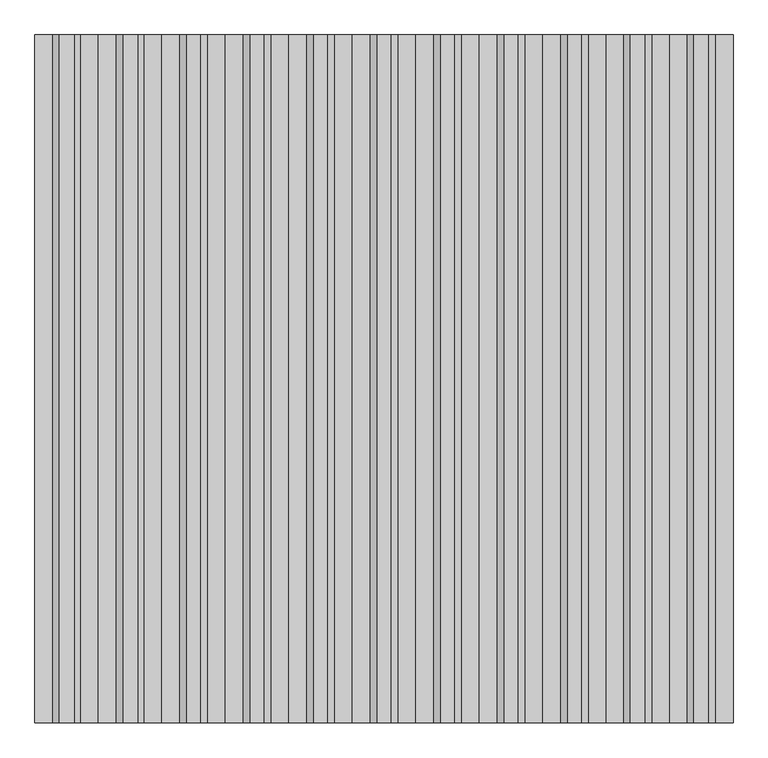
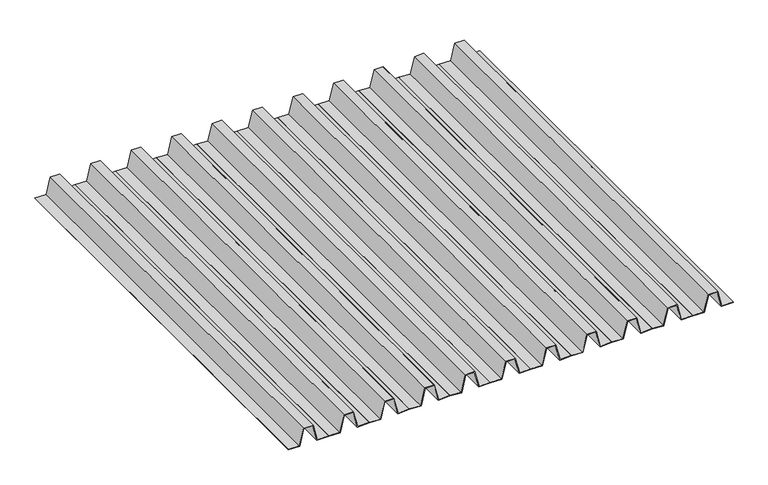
"""IFC4 building model written with IfcOpenShell, lengths in millimetres: proxy geometry, Renson_Amani_Fixed_Roof : Renson_Amani_Fixed_Roof."""

from ifc_helpers import new_model, si_unit, frame, origin, place, context, project, spatial, polyline, outline, extrude, source, transform, mapped, element, save


def generic_models_15760fd8(model_context):
    return source(origin(), model_context, "Body", "SweptSolid", [
        extrude(outline(polyline([(2416.1350727, 2500.0), (2413.1322147, 2500.0), (2410.0, 2571.7403502), (2516.0797384, 2598.1893092), (2516.0797384, 2651.8176159), (2410.0, 2678.2596498), (2413.1322147, 2750.0), (2416.1350727, 2750.0), (2413.1040587, 2680.577555), (2519.0797384, 2654.1614661), (2519.0797384, 2595.845459), (2413.1040587, 2569.422445), (2416.1350727, 2500.0)])), frame((0.0, 0.0, 0.0), z_axis=(0.0, 1.0, 0.0), x_axis=(0.0, 0.0, 1.0)), (0.0, 0.0, 1.0), 2710.0),
        extrude(outline(polyline([(2416.1350727, 2250.0), (2413.1322147, 2250.0), (2410.0, 2321.7403502), (2516.0797384, 2348.1893092), (2516.0797384, 2401.8176159), (2410.0, 2428.2596498), (2413.1322147, 2500.0), (2416.1350727, 2500.0), (2413.1040587, 2430.577555), (2519.0797384, 2404.1614661), (2519.0797384, 2345.845459), (2413.1040587, 2319.422445), (2416.1350727, 2250.0)])), frame((0.0, 0.0, 0.0), z_axis=(0.0, 1.0, 0.0), x_axis=(0.0, 0.0, 1.0)), (0.0, 0.0, 1.0), 2710.0),
        extrude(outline(polyline([(2416.1350727, 2000.0), (2413.1322147, 2000.0), (2410.0, 2071.7403502), (2516.0797384, 2098.1893092), (2516.0797384, 2151.8176159), (2410.0, 2178.2596498), (2413.1322147, 2250.0), (2416.1350727, 2250.0), (2413.1040587, 2180.577555), (2519.0797384, 2154.1614661), (2519.0797384, 2095.845459), (2413.1040587, 2069.422445), (2416.1350727, 2000.0)])), frame((0.0, 0.0, 0.0), z_axis=(0.0, 1.0, 0.0), x_axis=(0.0, 0.0, 1.0)), (0.0, 0.0, 1.0), 2710.0),
        extrude(outline(polyline([(2416.1350727, 1750.0), (2413.1322147, 1750.0), (2410.0, 1821.7403502), (2516.0797384, 1848.1893092), (2516.0797384, 1901.8176159), (2410.0, 1928.2596498), (2413.1322147, 2000.0), (2416.1350727, 2000.0), (2413.1040587, 1930.577555), (2519.0797384, 1904.1614661), (2519.0797384, 1845.845459), (2413.1040587, 1819.422445), (2416.1350727, 1750.0)])), frame((0.0, 0.0, 0.0), z_axis=(0.0, 1.0, 0.0), x_axis=(0.0, 0.0, 1.0)), (0.0, 0.0, 1.0), 2710.0),
        extrude(outline(polyline([(2416.1350727, 1500.0), (2413.1322147, 1500.0), (2410.0, 1571.7403502), (2516.0797384, 1598.1893092), (2516.0797384, 1651.8176159), (2410.0, 1678.2596498), (2413.1322147, 1750.0), (2416.1350727, 1750.0), (2413.1040587, 1680.577555), (2519.0797384, 1654.1614661), (2519.0797384, 1595.845459), (2413.1040587, 1569.422445), (2416.1350727, 1500.0)])), frame((0.0, 0.0, 0.0), z_axis=(0.0, 1.0, 0.0), x_axis=(0.0, 0.0, 1.0)), (0.0, 0.0, 1.0), 2710.0),
        extrude(outline(polyline([(2416.1350727, 1250.0), (2413.1322147, 1250.0), (2410.0, 1321.7403502), (2516.0797384, 1348.1893092), (2516.0797384, 1401.8176159), (2410.0, 1428.2596498), (2413.1322147, 1500.0), (2416.1350727, 1500.0), (2413.1040587, 1430.577555), (2519.0797384, 1404.1614661), (2519.0797384, 1345.845459), (2413.1040587, 1319.422445), (2416.1350727, 1250.0)])), frame((0.0, 0.0, 0.0), z_axis=(0.0, 1.0, 0.0), x_axis=(0.0, 0.0, 1.0)), (0.0, 0.0, 1.0), 2710.0),
        extrude(outline(polyline([(2416.1350727, 1000.0), (2413.1322147, 1000.0), (2410.0, 1071.7403502), (2516.0797384, 1098.1893092), (2516.0797384, 1151.8176159), (2410.0, 1178.2596498), (2413.1322147, 1250.0), (2416.1350727, 1250.0), (2413.1040587, 1180.577555), (2519.0797384, 1154.1614661), (2519.0797384, 1095.845459), (2413.1040587, 1069.422445), (2416.1350727, 1000.0)])), frame((0.0, 0.0, 0.0), z_axis=(0.0, 1.0, 0.0), x_axis=(0.0, 0.0, 1.0)), (0.0, 0.0, 1.0), 2710.0),
        extrude(outline(polyline([(2416.1350727, 750.0), (2413.1322147, 750.0), (2410.0, 821.7403502), (2516.0797384, 848.1893092), (2516.0797384, 901.8176159), (2410.0, 928.2596498), (2413.1322147, 1000.0), (2416.1350727, 1000.0), (2413.1040587, 930.577555), (2519.0797384, 904.1614661), (2519.0797384, 845.845459), (2413.1040587, 819.422445), (2416.1350727, 750.0)])), frame((0.0, 0.0, 0.0), z_axis=(0.0, 1.0, 0.0), x_axis=(0.0, 0.0, 1.0)), (0.0, 0.0, 1.0), 2710.0),
        extrude(outline(polyline([(2416.1350727, 500.0), (2413.1322147, 500.0), (2410.0, 571.7403502), (2516.0797384, 598.1893092), (2516.0797384, 651.8176159), (2410.0, 678.2596498), (2413.1322147, 750.0), (2416.1350727, 750.0), (2413.1040587, 680.577555), (2519.0797384, 654.1614661), (2519.0797384, 595.845459), (2413.1040587, 569.422445), (2416.1350727, 500.0)])), frame((0.0, 0.0, 0.0), z_axis=(0.0, 1.0, 0.0), x_axis=(0.0, 0.0, 1.0)), (0.0, 0.0, 1.0), 2710.0),
        extrude(outline(polyline([(2416.1350727, 250.0), (2413.1322147, 250.0), (2410.0, 321.7403502), (2516.0797384, 348.1893092), (2516.0797384, 401.8176159), (2410.0, 428.2596498), (2413.1322147, 500.0), (2416.1350727, 500.0), (2413.1040587, 430.577555), (2519.0797384, 404.1614661), (2519.0797384, 345.845459), (2413.1040587, 319.422445), (2416.1350727, 250.0)])), frame((0.0, 0.0, 0.0), z_axis=(0.0, 1.0, 0.0), x_axis=(0.0, 0.0, 1.0)), (0.0, 0.0, 1.0), 2710.0),
        extrude(outline(polyline([(2416.1350727, 0.0), (2413.1322147, 0.0), (2410.0, 71.7403502), (2516.0797384, 98.1893092), (2516.0797384, 151.8176159), (2410.0, 178.2596498), (2413.1322147, 250.0), (2416.1350727, 250.0), (2413.1040587, 180.577555), (2519.0797384, 154.1614661), (2519.0797384, 95.845459), (2413.1040587, 69.422445), (2416.1350727, 0.0)])), frame((0.0, 0.0, 0.0), z_axis=(0.0, 1.0, 0.0), x_axis=(0.0, 0.0, 1.0)), (0.0, 0.0, 1.0), 2710.0),
    ])


if __name__ == "__main__":
    model = new_model("IFC4")
    model_context = context("Model", 3, world=origin())
    ifc_project = project(units=[si_unit("LENGTHUNIT", "METRE", prefix="MILLI")], contexts=[model_context])
    site = spatial("IfcSite", under=ifc_project)
    building = spatial("IfcBuilding", under=site)
    placement = place(None, origin())
    generic_models_shape = generic_models_15760fd8(model_context)
    element("IfcBuildingElementProxy", 1, Name="Renson_Amani_Fixed_Roof : Renson_Amani_Fixed_Roof", ObjectType="Renson_Amani_Fixed_Roof : Renson_Amani_Fixed_Roof", at=placement, inside=building, context=model_context, shape_type="MappedRepresentation", body=[
        mapped(generic_models_shape, transform((0.0, 0.0, 0.0), x_axis=(1.0, 0.0, 0.0), y_axis=(0.0, 1.0, 0.0), z_axis=(0.0, 0.0, 1.0))),
    ])
    save(model, "model.ifc")
